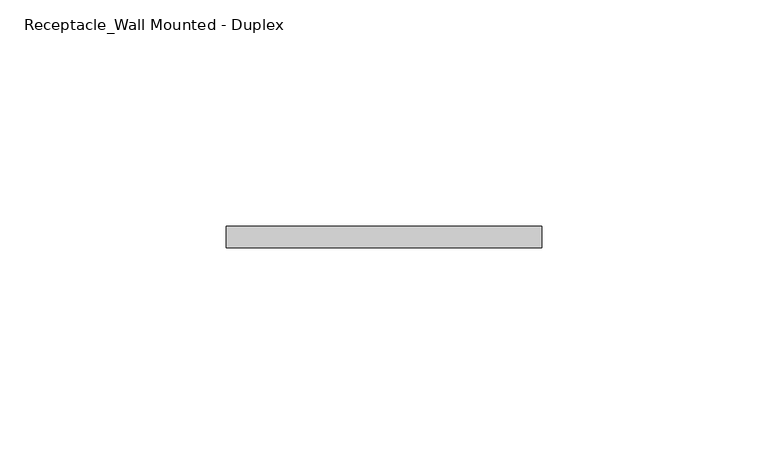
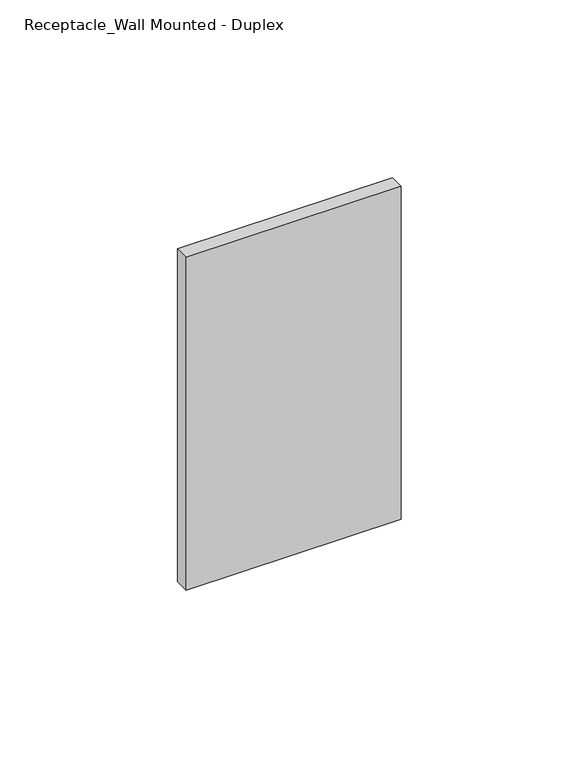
"""IFC4 building model written with IfcOpenShell, lengths in millimetres: proxy geometry, Receptacle_Wall Mounted - Duplex : Convenience."""

from ifc_helpers import new_model, si_unit, frame, origin, place, context, project, spatial, polyline, outline, extrude, source, transform, mapped, element, save


def receptacle_wall_mounted_duplex_77620e8f(model_context):
    return source(origin(), model_context, "Body", "SweptSolid", [
        extrude(outline(polyline([(34.925, -53.975), (34.925, -58.7375), (-34.925, -58.7375), (-34.925, -53.975), (34.925, -53.975)])), frame((0.0, 0.0, 400.05), z_axis=(0.0, 0.0, 1.0), x_axis=(1.0, 0.0, 0.0)), (0.0, 0.0, 1.0), 114.3),
    ])


if __name__ == "__main__":
    model = new_model("IFC4")
    model_context = context("Model", 3, world=origin())
    ifc_project = project(units=[si_unit("LENGTHUNIT", "METRE", prefix="MILLI")], contexts=[model_context])
    site = spatial("IfcSite", under=ifc_project)
    building = spatial("IfcBuilding", under=site)
    placement = place(None, origin())
    receptacle_wall_mounted_duplex_shape = receptacle_wall_mounted_duplex_77620e8f(model_context)
    element("IfcBuildingElementProxy", 1, Name="Receptacle_Wall Mounted - Duplex : Convenience", ObjectType="Receptacle_Wall Mounted - Duplex : Convenience", at=placement, inside=building, context=model_context, shape_type="MappedRepresentation", body=[
        mapped(receptacle_wall_mounted_duplex_shape, transform((0.0, 0.0, 0.0), x_axis=(1.0, 0.0, 0.0), y_axis=(0.0, 1.0, 0.0), z_axis=(0.0, 0.0, 1.0))),
    ])
    save(model, "model.ifc")
